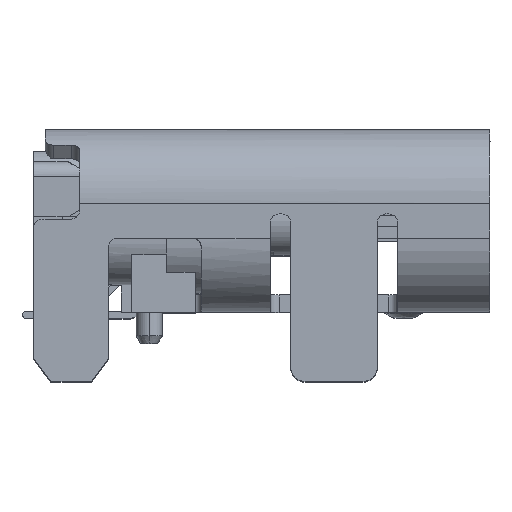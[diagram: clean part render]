
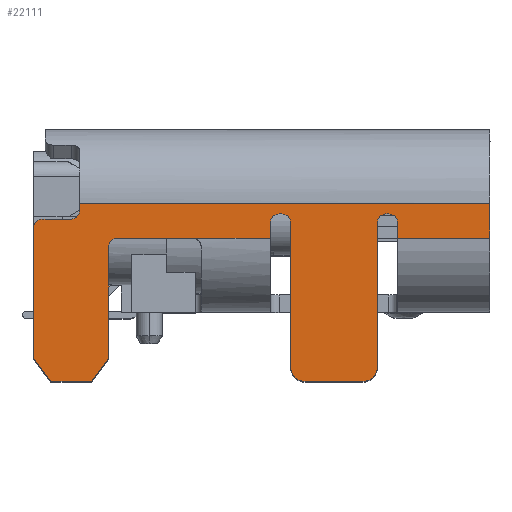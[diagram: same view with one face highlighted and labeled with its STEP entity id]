
A CAD part, top view. The second image highlights one B-rep face of the part: STEP entity #22111.
In plain terms, the highlighted planar face has unit normal (0, 0, 1).
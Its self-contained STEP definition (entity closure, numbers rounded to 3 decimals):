
#2706=DIRECTION('',(1.,0.,0.));
#2707=VECTOR('',#2706,1.6);
#2708=CARTESIAN_POINT('',(-1.6,-1.58,4.47));
#2709=LINE('',#2708,#2707);
#2728=DIRECTION('',(0.,-1.,0.));
#2729=VECTOR('',#2728,0.27);
#2730=CARTESIAN_POINT('',(-1.6,-1.31,4.47));
#2731=LINE('',#2730,#2729);
#2833=DIRECTION('',(0.,-1.,0.));
#2834=VECTOR('',#2833,2.5);
#2835=CARTESIAN_POINT('',(-3.45,-1.31,4.47));
#2836=LINE('',#2835,#2834);
#2845=CARTESIAN_POINT('',(-3.2,-3.81,4.47));
#2846=DIRECTION('',(0.,0.,-1.));
#2847=DIRECTION('',(0.,-1.,0.));
#2848=AXIS2_PLACEMENT_3D('',#2845,#2846,#2847);
#2850=CARTESIAN_POINT('',(-3.6,-1.31,4.47));
#2851=DIRECTION('',(0.,0.,1.));
#2852=DIRECTION('',(1.,0.,0.));
#2853=AXIS2_PLACEMENT_3D('',#2850,#2851,#2852);
#2855=DIRECTION('',(-1.,0.,0.));
#2856=VECTOR('',#2855,0.05);
#2857=CARTESIAN_POINT('',(-3.6,-1.16,4.47));
#2858=LINE('',#2857,#2856);
#2859=CARTESIAN_POINT('',(-3.65,-1.31,4.47));
#2860=DIRECTION('',(0.,0.,1.));
#2861=DIRECTION('',(0.,1.,0.));
#2862=AXIS2_PLACEMENT_3D('',#2859,#2860,#2861);
#2864=DIRECTION('',(0.,-1.,0.));
#2865=VECTOR('',#2864,0.27);
#2866=CARTESIAN_POINT('',(-3.8,-1.31,4.47));
#2867=LINE('',#2866,#2865);
#2868=DIRECTION('',(-1.,0.,0.));
#2869=VECTOR('',#2868,0.45);
#2870=CARTESIAN_POINT('',(-5.15,-1.58,
4.47));
#2871=LINE('',#2870,#2869);
#2872=DIRECTION('',(-1.,0.,0.));
#2873=VECTOR('',#2872,0.85);
#2874=CARTESIAN_POINT('',(-5.6,-1.58,4.47));
#2875=LINE('',#2874,#2873);
#2876=CARTESIAN_POINT('',(-6.45,-1.73,4.47));
#2877=DIRECTION('',(0.,0.,1.));
#2878=DIRECTION('',(0.,1.,0.));
#2879=AXIS2_PLACEMENT_3D('',#2876,#2877,#2878);
#2881=DIRECTION('',(0.,-1.,0.));
#2882=VECTOR('',#2881,1.93);
#2883=CARTESIAN_POINT('',(-6.6,-1.73,4.47));
#2884=LINE('',#2883,#2882);
#2885=DIRECTION('',(-0.6,-0.8,0.));
#2886=VECTOR('',#2885,0.5);
#2887=CARTESIAN_POINT('',(-6.6,-3.66,4.47));
#2888=LINE('',#2887,#2886);
#2889=DIRECTION('',(-0.6,0.8,0.));
#2890=VECTOR('',#2889,0.5);
#2891=CARTESIAN_POINT('',(-7.6,-4.06,4.47));
#2892=LINE('',#2891,#2890);
#2893=DIRECTION('',(0.,1.,0.));
#2894=VECTOR('',#2893,2.26);
#2895=CARTESIAN_POINT('',(-7.9,-3.66,4.47));
#2896=LINE('',#2895,#2894);
#2897=CARTESIAN_POINT('',(-7.75,-1.4,4.47));
#2898=DIRECTION('',(0.,0.,-1.));
#2899=DIRECTION('',(-1.,0.,0.));
#2900=AXIS2_PLACEMENT_3D('',#2897,#2898,#2899);
#2902=CARTESIAN_POINT('',(-7.25,-1.1,4.47));
#2903=DIRECTION('',(0.,0.,1.));
#2904=DIRECTION('',(0.,-1.,0.));
#2905=AXIS2_PLACEMENT_3D('',#2902,#2903,#2904);
#2907=DIRECTION('',(0.,1.,0.));
#2908=VECTOR('',#2907,0.12);
#2909=CARTESIAN_POINT('',(-7.1,-1.1,4.47));
#2910=LINE('',#2909,#2908);
#2911=DIRECTION('',(0.,-1.,0.));
#2912=VECTOR('',#2911,0.6);
#2913=CARTESIAN_POINT('',(0.,-0.98,4.47));
#2914=LINE('',#2913,#2912);
#2915=CARTESIAN_POINT('',(-1.75,-1.31,4.47));
#2916=DIRECTION('',(0.,0.,1.));
#2917=DIRECTION('',(1.,0.,0.));
#2918=AXIS2_PLACEMENT_3D('',#2915,#2916,#2917);
#2920=DIRECTION('',(-1.,0.,0.));
#2921=VECTOR('',#2920,0.05);
#2922=CARTESIAN_POINT('',(-1.75,-1.16,4.47));
#2923=LINE('',#2922,#2921);
#2924=CARTESIAN_POINT('',(-1.8,-1.31,4.47));
#2925=DIRECTION('',(0.,0.,1.));
#2926=DIRECTION('',(0.,1.,0.));
#2927=AXIS2_PLACEMENT_3D('',#2924,#2925,#2926);
#2929=CARTESIAN_POINT('',(-2.2,-3.81,4.47));
#2930=DIRECTION('',(0.,0.,-1.));
#2931=DIRECTION('',(1.,0.,0.));
#2932=AXIS2_PLACEMENT_3D('',#2929,#2930,#2931);
#3017=DIRECTION('',(1.,0.,0.));
#3018=VECTOR('',#3017,0.7);
#3019=CARTESIAN_POINT('',(-7.6,-4.06,4.47));
#3020=LINE('',#3019,#3018);
#3056=DIRECTION('',(-1.,0.,0.));
#3057=VECTOR('',#3056,0.05);
#3058=CARTESIAN_POINT('',(-7.7,-1.25,4.47));
#3059=LINE('',#3058,#3057);
#3060=DIRECTION('',(-1.,0.,0.));
#3061=VECTOR('',#3060,0.45);
#3062=CARTESIAN_POINT('',(-7.25,-1.25,4.47));
#3063=LINE('',#3062,#3061);
#3207=DIRECTION('',(-1.,0.,0.));
#3208=VECTOR('',#3207,7.1);
#3209=CARTESIAN_POINT('',(0.,-0.98,4.47));
#3210=LINE('',#3209,#3208);
#10927=DIRECTION('',(1.,0.,0.));
#10928=VECTOR('',#10927,1.35);
#10929=CARTESIAN_POINT('',(-5.15,-1.58,
4.47));
#10930=LINE('',#10929,#10928);
#11017=DIRECTION('',(0.,1.,0.));
#11018=VECTOR('',#11017,2.5);
#11019=CARTESIAN_POINT('',(-1.95,-3.81,4.47));
#11020=LINE('',#11019,#11018);
#11029=DIRECTION('',(1.,0.,0.));
#11030=VECTOR('',#11029,1.);
#11031=CARTESIAN_POINT('',(-3.2,-4.06,4.47));
#11032=LINE('',#11031,#11030);
#16150=CARTESIAN_POINT('',(0.,-0.98,4.47));
#16151=VERTEX_POINT('',#16150);
#16152=CARTESIAN_POINT('',(-7.1,-0.98,4.47));
#16153=VERTEX_POINT('',#16152);
#16166=CARTESIAN_POINT('',(-7.1,-1.1,4.47));
#16167=VERTEX_POINT('',#16166);
#16172=CARTESIAN_POINT('',(-3.2,-4.06,4.47));
#16173=CARTESIAN_POINT('',(-3.45,-3.81,4.47));
#16174=VERTEX_POINT('',#16172);
#16175=VERTEX_POINT('',#16173);
#16176=CARTESIAN_POINT('',(-3.45,-1.31,4.47));
#16177=VERTEX_POINT('',#16176);
#16178=CARTESIAN_POINT('',(-3.6,-1.16,4.47));
#16179=VERTEX_POINT('',#16178);
#16180=CARTESIAN_POINT('',(-3.65,-1.16,4.47));
#16181=VERTEX_POINT('',#16180);
#16182=CARTESIAN_POINT('',(-3.8,-1.31,4.47));
#16183=VERTEX_POINT('',#16182);
#16184=CARTESIAN_POINT('',(-3.8,-1.58,4.47));
#16185=VERTEX_POINT('',#16184);
#16186=CARTESIAN_POINT('',(-5.15,-1.58,
4.47));
#16187=VERTEX_POINT('',#16186);
#16188=CARTESIAN_POINT('',(-5.6,-1.58,4.47));
#16189=VERTEX_POINT('',#16188);
#16190=CARTESIAN_POINT('',(-6.45,-1.58,4.47));
#16191=VERTEX_POINT('',#16190);
#16192=CARTESIAN_POINT('',(-6.6,-1.73,4.47));
#16193=VERTEX_POINT('',#16192);
#16194=CARTESIAN_POINT('',(-6.6,-3.66,4.47));
#16195=VERTEX_POINT('',#16194);
#16196=CARTESIAN_POINT('',(-6.9,-4.06,4.47));
#16197=VERTEX_POINT('',#16196);
#16198=CARTESIAN_POINT('',(-7.6,-4.06,4.47));
#16199=VERTEX_POINT('',#16198);
#16200=CARTESIAN_POINT('',(-7.9,-3.66,4.47));
#16201=VERTEX_POINT('',#16200);
#16202=CARTESIAN_POINT('',(-7.9,-1.4,4.47));
#16203=VERTEX_POINT('',#16202);
#16204=CARTESIAN_POINT('',(-7.75,-1.25,4.47));
#16205=VERTEX_POINT('',#16204);
#16206=CARTESIAN_POINT('',(-7.7,-1.25,4.47));
#16207=VERTEX_POINT('',#16206);
#16208=CARTESIAN_POINT('',(-7.25,-1.25,4.47));
#16209=VERTEX_POINT('',#16208);
#16210=CARTESIAN_POINT('',(0.,-1.58,4.47));
#16211=VERTEX_POINT('',#16210);
#16212=CARTESIAN_POINT('',(-1.6,-1.58,4.47));
#16213=VERTEX_POINT('',#16212);
#16214=CARTESIAN_POINT('',(-1.6,-1.31,4.47));
#16215=VERTEX_POINT('',#16214);
#16216=CARTESIAN_POINT('',(-1.75,-1.16,4.47));
#16217=VERTEX_POINT('',#16216);
#16218=CARTESIAN_POINT('',(-1.8,-1.16,4.47));
#16219=VERTEX_POINT('',#16218);
#16220=CARTESIAN_POINT('',(-1.95,-1.31,4.47));
#16221=VERTEX_POINT('',#16220);
#16222=CARTESIAN_POINT('',(-1.95,-3.81,4.47));
#16223=VERTEX_POINT('',#16222);
#16224=CARTESIAN_POINT('',(-2.2,-4.06,4.47));
#16225=VERTEX_POINT('',#16224);
#22049=CARTESIAN_POINT('',(-5.87,0.3,4.47));
#22050=DIRECTION('',(0.,0.,1.));
#22051=DIRECTION('',(-1.,0.,0.));
#22052=AXIS2_PLACEMENT_3D('',#22049,#22050,#22051);
#22053=PLANE('',#22052);
#22054=ORIENTED_EDGE('',*,*,#22014,.T.);
#22055=ORIENTED_EDGE('',*,*,#22030,.F.);
#22056=ORIENTED_EDGE('',*,*,#22040,.T.);
#22058=ORIENTED_EDGE('',*,*,#22057,.T.);
#22060=ORIENTED_EDGE('',*,*,#22059,.T.);
#22062=ORIENTED_EDGE('',*,*,#22061,.T.);
#22064=ORIENTED_EDGE('',*,*,#22063,.F.);
#22066=ORIENTED_EDGE('',*,*,#22065,.T.);
#22068=ORIENTED_EDGE('',*,*,#22067,.T.);
#22070=ORIENTED_EDGE('',*,*,#22069,.T.);
#22072=ORIENTED_EDGE('',*,*,#22071,.T.);
#22074=ORIENTED_EDGE('',*,*,#22073,.T.);
#22076=ORIENTED_EDGE('',*,*,#22075,.F.);
#22078=ORIENTED_EDGE('',*,*,#22077,.T.);
#22080=ORIENTED_EDGE('',*,*,#22079,.T.);
#22082=ORIENTED_EDGE('',*,*,#22081,.T.);
#22084=ORIENTED_EDGE('',*,*,#22083,.F.);
#22086=ORIENTED_EDGE('',*,*,#22085,.F.);
#22088=ORIENTED_EDGE('',*,*,#22087,.T.);
#22090=ORIENTED_EDGE('',*,*,#22089,.T.);
#22092=ORIENTED_EDGE('',*,*,#22091,.F.);
#22094=ORIENTED_EDGE('',*,*,#22093,.T.);
#22095=ORIENTED_EDGE('',*,*,#21902,.F.);
#22096=ORIENTED_EDGE('',*,*,#21932,.F.);
#22098=ORIENTED_EDGE('',*,*,#22097,.T.);
#22100=ORIENTED_EDGE('',*,*,#22099,.T.);
#22102=ORIENTED_EDGE('',*,*,#22101,.T.);
#22104=ORIENTED_EDGE('',*,*,#22103,.F.);
#22106=ORIENTED_EDGE('',*,*,#22105,.T.);
#22108=ORIENTED_EDGE('',*,*,#22107,.F.);
#22109=EDGE_LOOP('',(#22054,#22055,#22056,#22058,#22060,#22062,#22064,#22066,
#22068,#22070,#22072,#22074,#22076,#22078,#22080,#22082,#22084,#22086,#22088,
#22090,#22092,#22094,#22095,#22096,#22098,#22100,#22102,#22104,#22106,#22108));
#22110=FACE_OUTER_BOUND('',#22109,.F.);
#2849=CIRCLE('',#2848,0.25);
#2854=CIRCLE('',#2853,0.15);
#2863=CIRCLE('',#2862,0.15);
#2880=CIRCLE('',#2879,0.15);
#2901=CIRCLE('',#2900,0.15);
#2906=CIRCLE('',#2905,0.15);
#2919=CIRCLE('',#2918,0.15);
#2928=CIRCLE('',#2927,0.15);
#2933=CIRCLE('',#2932,0.25);
#21902=EDGE_CURVE('',#16213,#16211,#2709,.T.);
#21932=EDGE_CURVE('',#16215,#16213,#2731,.T.);
#22014=EDGE_CURVE('',#16174,#16175,#2849,.T.);
#22030=EDGE_CURVE('',#16177,#16175,#2836,.T.);
#22040=EDGE_CURVE('',#16177,#16179,#2854,.T.);
#22057=EDGE_CURVE('',#16179,#16181,#2858,.T.);
#22059=EDGE_CURVE('',#16181,#16183,#2863,.T.);
#22061=EDGE_CURVE('',#16183,#16185,#2867,.T.);
#22063=EDGE_CURVE('',#16187,#16185,#10930,.T.);
#22065=EDGE_CURVE('',#16187,#16189,#2871,.T.);
#22067=EDGE_CURVE('',#16189,#16191,#2875,.T.);
#22069=EDGE_CURVE('',#16191,#16193,#2880,.T.);
#22071=EDGE_CURVE('',#16193,#16195,#2884,.T.);
#22073=EDGE_CURVE('',#16195,#16197,#2888,.T.);
#22075=EDGE_CURVE('',#16199,#16197,#3020,.T.);
#22077=EDGE_CURVE('',#16199,#16201,#2892,.T.);
#22079=EDGE_CURVE('',#16201,#16203,#2896,.T.);
#22081=EDGE_CURVE('',#16203,#16205,#2901,.T.);
#22083=EDGE_CURVE('',#16207,#16205,#3059,.T.);
#22085=EDGE_CURVE('',#16209,#16207,#3063,.T.);
#22087=EDGE_CURVE('',#16209,#16167,#2906,.T.);
#22089=EDGE_CURVE('',#16167,#16153,#2910,.T.);
#22091=EDGE_CURVE('',#16151,#16153,#3210,.T.);
#22093=EDGE_CURVE('',#16151,#16211,#2914,.T.);
#22097=EDGE_CURVE('',#16215,#16217,#2919,.T.);
#22099=EDGE_CURVE('',#16217,#16219,#2923,.T.);
#22101=EDGE_CURVE('',#16219,#16221,#2928,.T.);
#22103=EDGE_CURVE('',#16223,#16221,#11020,.T.);
#22105=EDGE_CURVE('',#16223,#16225,#2933,.T.);
#22107=EDGE_CURVE('',#16174,#16225,#11032,.T.);
#22111=ADVANCED_FACE('',(#22110),#22053,.T.);
